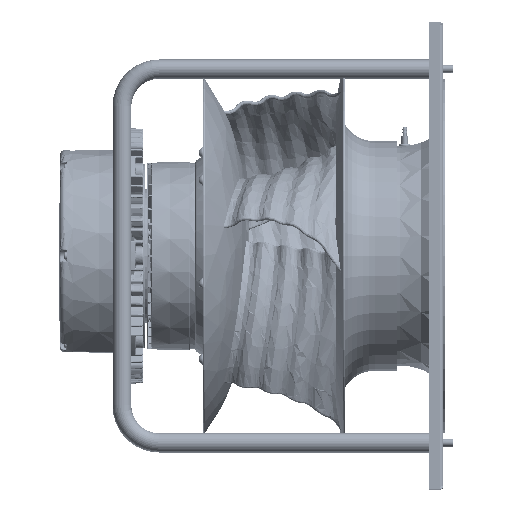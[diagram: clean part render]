
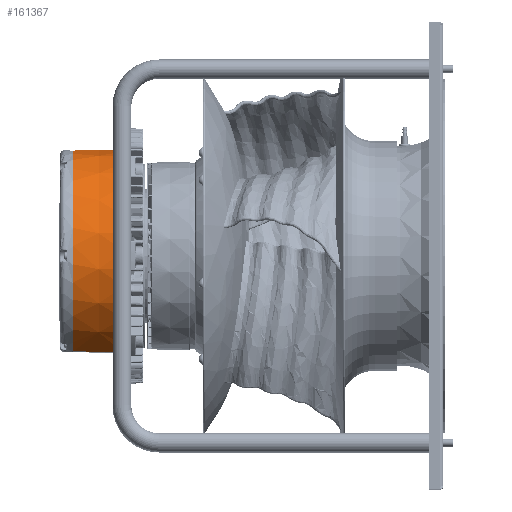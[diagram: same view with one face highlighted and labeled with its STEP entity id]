
A CAD part, top view. The second image highlights one B-rep face of the part: STEP entity #161367.
In plain terms, the highlighted conical face has half-angle 0.5 degrees and reference radius 113.51 mm.
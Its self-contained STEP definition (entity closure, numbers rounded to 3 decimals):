
#23649=CARTESIAN_POINT('',(-80.596,0.,0.));
#23650=DIRECTION('',(1.,0.,0.));
#23651=DIRECTION('',(0.,-0.91,-0.415));
#23652=AXIS2_PLACEMENT_3D('',#23649,#23650,#23651);
#23654=DIRECTION('',(1.,-0.008,0.004));
#23655=VECTOR('',#23654,2.013);
#23656=CARTESIAN_POINT('',(-82.609,-103.48,
47.18));
#23657=LINE('',#23656,#23655);
#23658=CARTESIAN_POINT('',(-82.609,0.,0.));
#23659=DIRECTION('',(-1.,0.,0.));
#23660=DIRECTION('',(0.,-0.91,0.415));
#23661=AXIS2_PLACEMENT_3D('',#23658,#23659,#23660);
#23663=CARTESIAN_POINT('',(-134.6,0.,0.));
#23664=DIRECTION('',(1.,0.,0.));
#23665=DIRECTION('',(0.,-0.902,-0.432));
#23666=AXIS2_PLACEMENT_3D('',#23663,#23664,#23665);
#23668=CARTESIAN_POINT('',(-82.609,0.,0.));
#23669=DIRECTION('',(-1.,0.,0.));
#23670=DIRECTION('',(0.,-0.902,-0.431));
#23671=AXIS2_PLACEMENT_3D('',#23668,#23669,#23670);
#23673=DIRECTION('',(1.,-0.008,-0.004));
#23674=VECTOR('',#23673,2.013);
#23675=CARTESIAN_POINT('',(-82.609,-103.48,
-47.18));
#23676=LINE('',#23675,#23674);
#23732=CARTESIAN_POINT('',(-82.609,-102.63,
-49.001));
#23733=CARTESIAN_POINT('',(-88.399,-102.58,
-48.99));
#23734=CARTESIAN_POINT('',(-99.97,-102.478,
-48.969));
#23735=CARTESIAN_POINT('',(-117.3,-102.325,
-48.937));
#23736=CARTESIAN_POINT('',(-128.836,-102.224,
-48.916));
#23737=CARTESIAN_POINT('',(-134.6,-102.173,
-48.906));
#23745=CARTESIAN_POINT('',(-134.6,-102.173,
-48.906));
#27832=CARTESIAN_POINT('',(-134.6,-102.173,
48.906));
#27840=CARTESIAN_POINT('',(-134.6,-102.173,
48.906));
#27841=CARTESIAN_POINT('',(-128.836,-102.224,
48.916));
#27842=CARTESIAN_POINT('',(-117.3,-102.325,
48.937));
#27843=CARTESIAN_POINT('',(-99.97,-102.478,
48.969));
#27844=CARTESIAN_POINT('',(-88.399,-102.58,
48.99));
#27845=CARTESIAN_POINT('',(-82.609,-102.63,
49.001));
#114394=CARTESIAN_POINT('',(-82.609,-103.48,
-47.18));
#114395=CARTESIAN_POINT('',(-82.609,-103.48,
47.18));
#114396=VERTEX_POINT('',#114394);
#114397=VERTEX_POINT('',#114395);
#114402=CARTESIAN_POINT('',(-82.609,-102.63,
-49.001));
#114403=VERTEX_POINT('',#114402);
#114404=CARTESIAN_POINT('',(-82.609,-102.63,
49.001));
#114405=VERTEX_POINT('',#114404);
#114406=CARTESIAN_POINT('',(-80.596,-103.496,
47.187));
#114407=CARTESIAN_POINT('',(-80.596,-103.496,
-47.187));
#114408=VERTEX_POINT('',#114406);
#114409=VERTEX_POINT('',#114407);
#115080=VERTEX_POINT('',#27832);
#115084=VERTEX_POINT('',#23745);
#161347=CARTESIAN_POINT('',(-107.598,0.,0.));
#161348=DIRECTION('',(1.,0.,0.));
#161349=DIRECTION('',(0.,1.,0.));
#161350=AXIS2_PLACEMENT_3D('',#161347,#161348,#161349);
#161351=CONICAL_SURFACE('',#161350,113.51,0.5);
#161352=ORIENTED_EDGE('',*,*,#161046,.T.);
#161353=ORIENTED_EDGE('',*,*,#161342,.F.);
#161355=ORIENTED_EDGE('',*,*,#161354,.T.);
#161357=ORIENTED_EDGE('',*,*,#161356,.F.);
#161359=ORIENTED_EDGE('',*,*,#161358,.F.);
#161361=ORIENTED_EDGE('',*,*,#161360,.F.);
#161363=ORIENTED_EDGE('',*,*,#161362,.T.);
#161364=ORIENTED_EDGE('',*,*,#161338,.T.);
#161365=EDGE_LOOP('',(#161352,#161353,#161355,#161357,#161359,#161361,#161363,
#161364));
#161366=FACE_OUTER_BOUND('',#161365,.F.);
#23653=CIRCLE('',#23652,113.746);
#23662=CIRCLE('',#23661,113.728);
#23667=CIRCLE('',#23666,113.274);
#23672=CIRCLE('',#23671,113.728);
#23738=B_SPLINE_CURVE_WITH_KNOTS('',3,(#23732,#23733,#23734,#23735,#23736,
#23737),.UNSPECIFIED.,.F.,.F.,(4,1,1,4),(0.,0.333,
0.667,1.),.UNSPECIFIED.);
#27846=B_SPLINE_CURVE_WITH_KNOTS('',3,(#27840,#27841,#27842,#27843,#27844,
#27845),.UNSPECIFIED.,.F.,.F.,(4,1,1,4),(0.,0.333,
0.667,1.),.UNSPECIFIED.);
#161046=EDGE_CURVE('',#114409,#114408,#23653,.T.);
#161338=EDGE_CURVE('',#114396,#114409,#23676,.T.);
#161342=EDGE_CURVE('',#114397,#114408,#23657,.T.);
#161354=EDGE_CURVE('',#114397,#114405,#23662,.T.);
#161356=EDGE_CURVE('',#115080,#114405,#27846,.T.);
#161358=EDGE_CURVE('',#115084,#115080,#23667,.T.);
#161360=EDGE_CURVE('',#114403,#115084,#23738,.T.);
#161362=EDGE_CURVE('',#114403,#114396,#23672,.T.);
#161367=ADVANCED_FACE('',(#161366),#161351,.T.);
